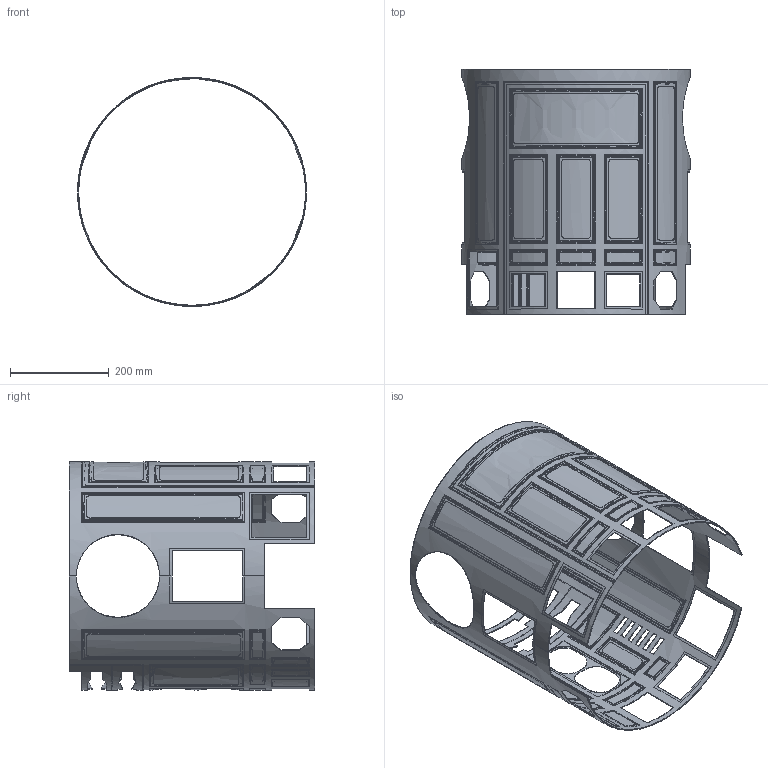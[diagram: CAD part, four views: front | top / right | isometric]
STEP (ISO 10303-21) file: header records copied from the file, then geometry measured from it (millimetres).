
FILE_DESCRIPTION(('STEP AP203'),'1');
FILE_NAME('C:/Documents and Settings/Administrator/My Documents/Dropbox/R2 Everything/R2-D2 Master/Drawings/CSR/CSR - CAD/CSR SKIN Rolled Assembly ANH - 20140501 3D - STEP.stp','2014-05-22T04:55:31',(' '),(' '),'Spatial InterOp 3D',' ',' ');
FILE_SCHEMA(('CONFIG_CONTROL_DESIGN'));
Length unit declared in the file: metre
Products named in the file (58): Front Outer; Part48; Part49; Part52; Part54; Part55; Part56; Part57; Part58; Part59; Part60; Part61; Part62; Part65; Part115; Part117; ANH Skins; Rear Outer; Part69; Part70; Part71; Part72; Part73; Part74; Part75; Part76; Part77; Part78; Part79; Part114; Rear Inside; Part83; Part84; Part85; Part86; Part87; Part88; Part89; Part90; Part91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
Assembly tree (57 placements, depth 3):
  ANH Skins
    Front Outer
      Part48
      Part49
      Part52
      Part54
      Part55
      Part56
      Part57
      Part58
      Part59
      Part60
      Part61
      Part62
      Part65
      Part65
      Part115
      Part117
    Rear Outer
      Part69
      Part70
      Part71
      Part72
      Part73
      Part74
      Part75
      Part76
      Part77
      Part78
      Part79
      Part114
    Rear Inside
      Part83
      Part84
      Part85
      Part86
      Part87
      Part88
      Part89
      Part90
      Part91
      Part92
      Part93
      Part112
    Front Inside
      Part95
      Part96
      Part97
      Part98
      Part99
      Part100
      Part101
      Part102
      Part103
      Part104
      Part105
      Part106
      Part119
Bounding box: 463.55 x 496.89 x 463.52 mm (x, y, z)
Volume: 871109.7 mm3; surface area: 1766925.9 mm2
Topology: 53 solids, 53 shells, 824 faces, 2154 edges, 1436 vertices
Faces by surface type: plane 640, bspline 131, offset 53
Entity records: 63095 total; most frequent: CARTESIAN_POINT 42560, ORIENTED_EDGE 4288, DIRECTION 2294, EDGE_CURVE 2144, VERTEX_POINT 1436, B_SPLINE_CURVE_WITH_KNOTS 1254, EDGE_LOOP 1018, LINE 890
